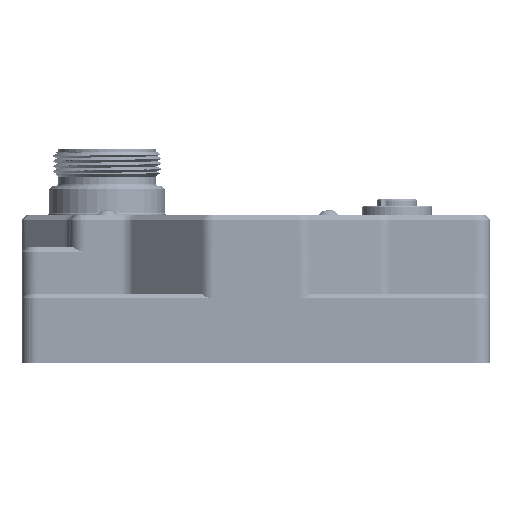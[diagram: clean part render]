
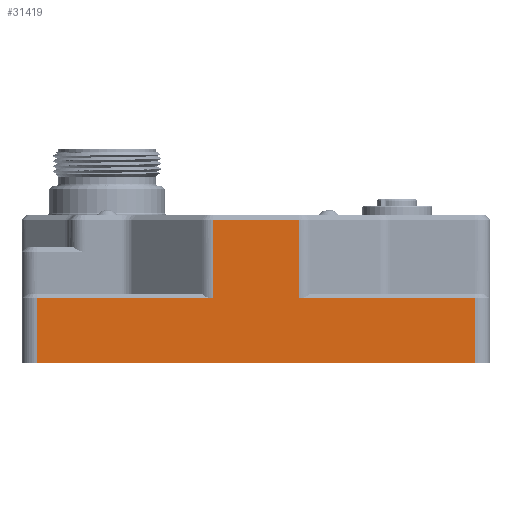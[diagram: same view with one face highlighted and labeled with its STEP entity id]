
A CAD part, left-side view. The second image highlights one B-rep face of the part: STEP entity #31419.
In plain terms, the highlighted planar face has unit normal (-1, 0, 0).
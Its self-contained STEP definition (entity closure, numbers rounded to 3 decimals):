
#28914=CARTESIAN_POINT('',(-80.0,-44.5,0.0));
#28915=VERTEX_POINT('',#28914);
#28923=CARTESIAN_POINT('',(-80.0,44.5,0.0));
#28924=VERTEX_POINT('',#28923);
#28925=CARTESIAN_POINT('',(-80.0,-44.5,0.0));
#28926=DIRECTION('',(0.0,1.0,0.0));
#28927=VECTOR('',#28926,89.0);
#28928=LINE('',#28925,#28927);
#28929=EDGE_CURVE('',#28915,#28924,#28928,.T.);
#29272=CARTESIAN_POINT('',(-80.0,44.5,13.0));
#29273=VERTEX_POINT('',#29272);
#29280=CARTESIAN_POINT('',(-80.0,8.75,13.0));
#29281=VERTEX_POINT('',#29280);
#29282=CARTESIAN_POINT('',(-80.0,44.5,13.0));
#29283=DIRECTION('',(0.0,-1.0,0.0));
#29284=VECTOR('',#29283,35.75);
#29285=LINE('',#29282,#29284);
#29286=EDGE_CURVE('',#29273,#29281,#29285,.T.);
#29465=CARTESIAN_POINT('',(-80.0,-44.5,13.0));
#29466=VERTEX_POINT('',#29465);
#29496=CARTESIAN_POINT('',(-80.0,-8.75,13.0));
#29497=VERTEX_POINT('',#29496);
#29507=CARTESIAN_POINT('',(-80.0,-8.75,13.0));
#29508=DIRECTION('',(0.0,-1.0,0.0));
#29509=VECTOR('',#29508,35.75);
#29510=LINE('',#29507,#29509);
#29511=EDGE_CURVE('',#29497,#29466,#29510,.T.);
#30398=CARTESIAN_POINT('',(-80.0,8.75,29.0));
#30399=VERTEX_POINT('',#30398);
#30431=CARTESIAN_POINT('',(-80.0,-8.75,29.0));
#30432=VERTEX_POINT('',#30431);
#30448=CARTESIAN_POINT('',(-80.0,8.75,29.0));
#30449=DIRECTION('',(0.0,-1.0,0.0));
#30450=VECTOR('',#30449,17.5);
#30451=LINE('',#30448,#30450);
#30452=EDGE_CURVE('',#30399,#30432,#30451,.T.);
#31378=CARTESIAN_POINT('',(-80.0,-8.75,13.0));
#31379=DIRECTION('',(0.0,0.0,1.0));
#31380=VECTOR('',#31379,16.0);
#31381=LINE('',#31378,#31380);
#31382=EDGE_CURVE('',#29497,#30432,#31381,.T.);
#31389=CARTESIAN_POINT('',(-80.0,-44.5,0.0));
#31390=DIRECTION('',(-1.0,0.0,0.0));
#31391=DIRECTION('',(0.0,0.0,1.0));
#31392=AXIS2_PLACEMENT_3D('',#31389,#31390,#31391);
#31393=PLANE('',#31392);
#31394=ORIENTED_EDGE('',*,*,#29286,.F.);
#31395=CARTESIAN_POINT('',(-80.0,44.5,0.0));
#31396=DIRECTION('',(0.0,0.0,1.0));
#31397=VECTOR('',#31396,13.0);
#31398=LINE('',#31395,#31397);
#31399=EDGE_CURVE('',#28924,#29273,#31398,.T.);
#31400=ORIENTED_EDGE('',*,*,#31399,.F.);
#31401=ORIENTED_EDGE('',*,*,#28929,.F.);
#31402=CARTESIAN_POINT('',(-80.0,-44.5,0.0));
#31403=DIRECTION('',(0.0,0.0,1.0));
#31404=VECTOR('',#31403,13.0);
#31405=LINE('',#31402,#31404);
#31406=EDGE_CURVE('',#28915,#29466,#31405,.T.);
#31407=ORIENTED_EDGE('',*,*,#31406,.T.);
#31408=ORIENTED_EDGE('',*,*,#29511,.F.);
#31409=ORIENTED_EDGE('',*,*,#31382,.T.);
#31410=ORIENTED_EDGE('',*,*,#30452,.F.);
#31411=CARTESIAN_POINT('',(-80.0,8.75,13.0));
#31412=DIRECTION('',(0.0,0.0,1.0));
#31413=VECTOR('',#31412,16.0);
#31414=LINE('',#31411,#31413);
#31415=EDGE_CURVE('',#29281,#30399,#31414,.T.);
#31416=ORIENTED_EDGE('',*,*,#31415,.F.);
#31417=EDGE_LOOP('',(#31394,#31400,#31401,#31407,#31408,#31409,#31410,#31416));
#31418=FACE_OUTER_BOUND('',#31417,.T.);
#31419=ADVANCED_FACE('',(#31418),#31393,.T.);
